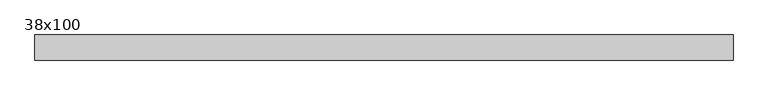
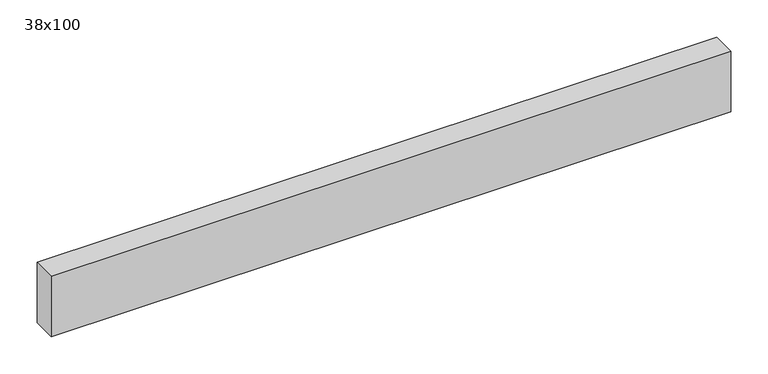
"""IFC4 building model written with IfcOpenShell, lengths in millimetres: beam geometry, Poutre - Bois de construction de dimensions courantes : 38x100."""

from ifc_helpers import new_model, si_unit, frame, origin, place, context, project, spatial, polyline, outline, extrude, source, transform, mapped, element, save


def beam_38x100_4d9a3851(model_context):
    return source(origin(), model_context, "Body", "SweptSolid", [
        extrude(outline(polyline([(478.5, 19.05), (478.5, -19.05), (-580.5, -19.05), (-580.5, 19.05), (478.5, 19.05)])), frame((0.0, 0.0, -50.0), z_axis=(0.0, 0.0, 1.0), x_axis=(1.0, 0.0, 0.0)), (0.0, 0.0, 1.0), 100.0),
    ])


if __name__ == "__main__":
    model = new_model("IFC4")
    model_context = context("Model", 3, world=origin())
    ifc_project = project(units=[si_unit("LENGTHUNIT", "METRE", prefix="MILLI")], contexts=[model_context])
    site = spatial("IfcSite", under=ifc_project)
    building = spatial("IfcBuilding", under=site)
    placement = place(None, origin())
    beam_38x100_shape = beam_38x100_4d9a3851(model_context)
    element("IfcBeam", 1, ObjectType="Poutre - Bois de construction de dimensions courantes : 38x100", at=placement, inside=building, context=model_context, shape_type="MappedRepresentation", body=[
        mapped(beam_38x100_shape, transform((0.0, 0.0, 0.0), x_axis=(1.0, 0.0, 0.0), y_axis=(0.0, 1.0, 0.0), z_axis=(0.0, 0.0, 1.0))),
    ])
    save(model, "model.ifc")
